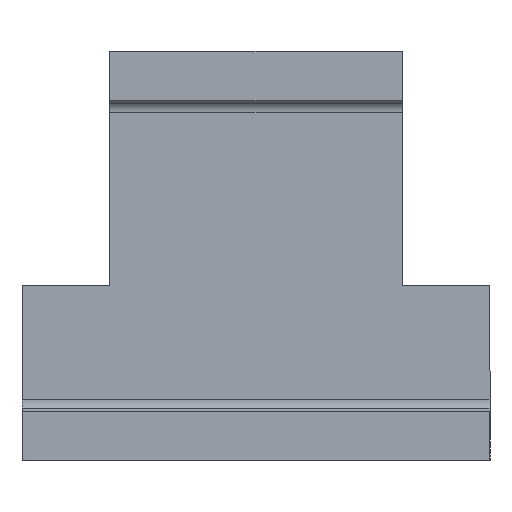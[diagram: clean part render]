
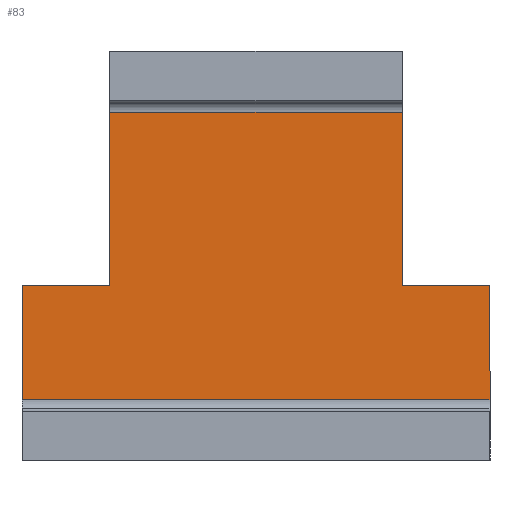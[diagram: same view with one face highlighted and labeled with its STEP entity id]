
A CAD part, left-side view. The second image highlights one B-rep face of the part: STEP entity #83.
In plain terms, the highlighted planar face has unit normal (-1, 0, 0).
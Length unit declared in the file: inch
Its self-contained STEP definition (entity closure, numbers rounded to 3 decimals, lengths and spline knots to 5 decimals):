
#83=ADVANCED_FACE('',(#170),#171,.T.);
#170=FACE_OUTER_BOUND('',#258,.T.);
#171=PLANE('',#259);
#258=EDGE_LOOP('',(#473,#474,#475,#476,#477,#478,#479,#480));
#259=AXIS2_PLACEMENT_3D('',#481,#482,#483);
#473=ORIENTED_EDGE('',*,*,#631,.F.);
#474=ORIENTED_EDGE('',*,*,#584,.T.);
#475=ORIENTED_EDGE('',*,*,#622,.T.);
#476=ORIENTED_EDGE('',*,*,#632,.F.);
#477=ORIENTED_EDGE('',*,*,#633,.F.);
#478=ORIENTED_EDGE('',*,*,#619,.T.);
#479=ORIENTED_EDGE('',*,*,#556,.T.);
#480=ORIENTED_EDGE('',*,*,#613,.T.);
#481=CARTESIAN_POINT('',(6.89501,0.5,-0.105));
#482=DIRECTION('',(-1.0,-0.0,0.0));
#483=DIRECTION('',(0.0,-1.0,-0.0));
#556=EDGE_CURVE('',#655,#656,#657,.T.);
#584=EDGE_CURVE('',#706,#704,#707,.T.);
#613=EDGE_CURVE('',#656,#749,#751,.T.);
#619=EDGE_CURVE('',#758,#655,#759,.T.);
#622=EDGE_CURVE('',#704,#762,#763,.T.);
#631=EDGE_CURVE('',#706,#749,#773,.T.);
#632=EDGE_CURVE('',#774,#762,#775,.T.);
#633=EDGE_CURVE('',#758,#774,#776,.T.);
#655=VERTEX_POINT('',#802);
#656=VERTEX_POINT('',#803);
#657=LINE('',#804,#805);
#704=VERTEX_POINT('',#866);
#706=VERTEX_POINT('',#869);
#707=LINE('',#870,#871);
#749=VERTEX_POINT('',#940);
#751=LINE('',#942,#943);
#758=VERTEX_POINT('',#952);
#759=LINE('',#953,#954);
#762=VERTEX_POINT('',#957);
#763=LINE('',#958,#959);
#773=LINE('',#972,#973);
#774=VERTEX_POINT('',#974);
#775=LINE('',#975,#976);
#776=LINE('',#977,#978);
#802=CARTESIAN_POINT('',(6.89501,0.,0.27));
#803=CARTESIAN_POINT('',(6.89501,0.1875,0.27));
#804=CARTESIAN_POINT('',(6.89501,0.29688,0.27));
#805=VECTOR('',#1020,1.0);
#866=CARTESIAN_POINT('',(6.89501,0.8125,0.27));
#869=CARTESIAN_POINT('',(6.89501,0.8125,0.64));
#870=CARTESIAN_POINT('',(6.89501,0.8125,0.2075));
#871=VECTOR('',#1057,1.0);
#940=CARTESIAN_POINT('',(6.89501,0.1875,0.64));
#942=CARTESIAN_POINT('',(6.89501,0.1875,0.2075));
#943=VECTOR('',#1085,1.0);
#952=CARTESIAN_POINT('',(6.89501,0.,0.025));
#953=CARTESIAN_POINT('',(6.89501,0.,-0.105));
#954=VECTOR('',#1094,1.0);
#957=CARTESIAN_POINT('',(6.89501,1.0,0.27));
#958=CARTESIAN_POINT('',(6.89501,0.70313,0.27));
#959=VECTOR('',#1098,1.0);
#972=CARTESIAN_POINT('',(6.89501,0.5,0.64));
#973=VECTOR('',#1105,1.0);
#974=CARTESIAN_POINT('',(6.89501,1.0,0.025));
#975=CARTESIAN_POINT('',(6.89501,1.0,-0.105));
#976=VECTOR('',#1106,1.0);
#977=CARTESIAN_POINT('',(6.89501,0.5,0.025));
#978=VECTOR('',#1107,1.0);
#1020=DIRECTION('',(0.0,1.0,0.0));
#1057=DIRECTION('',(0.0,0.0,-1.0));
#1085=DIRECTION('',(0.0,0.0,1.0));
#1094=DIRECTION('',(0.0,0.0,1.0));
#1098=DIRECTION('',(0.0,1.0,0.0));
#1105=DIRECTION('',(-0.0,-1.0,0.));
#1106=DIRECTION('',(0.0,0.0,1.0));
#1107=DIRECTION('',(0.0,1.0,-0.0));
